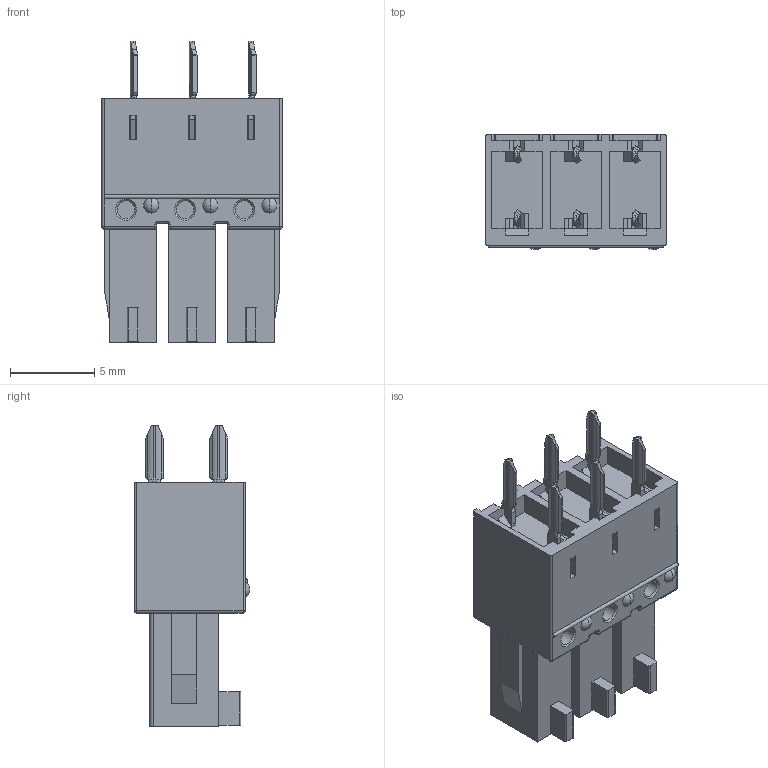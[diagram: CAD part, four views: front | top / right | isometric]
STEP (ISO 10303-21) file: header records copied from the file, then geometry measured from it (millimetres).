
FILE_DESCRIPTION((''),'2;1');
FILE_NAME('33','2019-04-18T',('zhenbing.lai'),(''),'CREO PARAMETRIC BY PTC INC, 2016260','CREO PARAMETRIC BY PTC INC, 2016260','');
FILE_SCHEMA(('CONFIG_CONTROL_DESIGN'));
Length unit declared in the file: millimetre
Products named in the file (1): 33
Bounding box: 10.7 x 6.85 x 17.9 mm (x, y, z)
Volume: 683.3 mm3; surface area: 929.9 mm2
Topology: 1 solids, 1 shells, 519 faces, 1439 edges, 927 vertices
Faces by surface type: plane 279, cylinder 106, bspline 80, torus 32, cone 12, sphere 10
Entity records: 18871 total; most frequent: CARTESIAN_POINT 6237, ORIENTED_EDGE 2858, DIRECTION 2283, EDGE_CURVE 1429, VERTEX_POINT 927, VECTOR 869, LINE 869, AXIS2_PLACEMENT_3D 707
